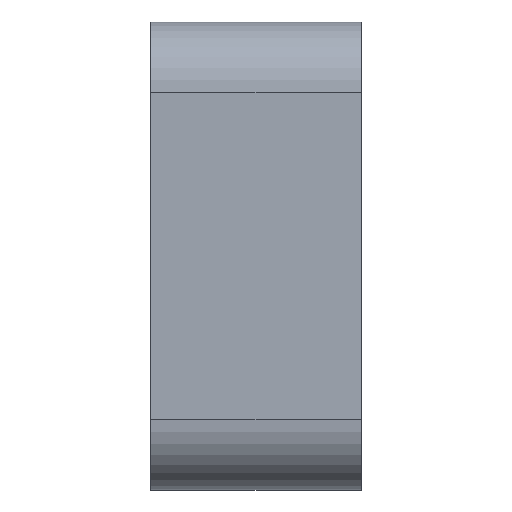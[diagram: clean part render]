
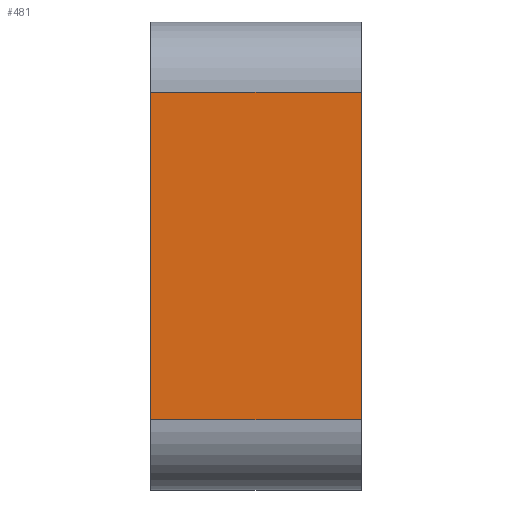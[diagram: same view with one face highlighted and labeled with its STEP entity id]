
A CAD part, top view. The second image highlights one B-rep face of the part: STEP entity #481.
In plain terms, the highlighted planar face has unit normal (0, 0, 1).
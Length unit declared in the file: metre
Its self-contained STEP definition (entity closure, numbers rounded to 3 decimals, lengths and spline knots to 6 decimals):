
#68=ORIENTED_EDGE('',*,*,#212,.F.);
#69=ORIENTED_EDGE('',*,*,#213,.T.);
#70=ORIENTED_EDGE('',*,*,#214,.T.);
#71=ORIENTED_EDGE('',*,*,#215,.T.);
#212=EDGE_CURVE('',#284,#285,#328,.T.);
#213=EDGE_CURVE('',#284,#286,#329,.T.);
#214=EDGE_CURVE('',#286,#287,#330,.T.);
#215=EDGE_CURVE('',#287,#285,#331,.F.);
#284=VERTEX_POINT('',#763);
#285=VERTEX_POINT('',#764);
#286=VERTEX_POINT('',#766);
#287=VERTEX_POINT('',#768);
#328=LINE('',#762,#376);
#329=LINE('',#765,#377);
#330=LINE('',#767,#378);
#331=LINE('',#769,#379);
#376=VECTOR('',#601,1.);
#377=VECTOR('',#602,1.);
#378=VECTOR('',#603,1.);
#379=VECTOR('',#604,1.);
#411=EDGE_LOOP('',(#68,#69,#70,#71));
#439=FACE_BOUND('',#411,.T.);
#467=PLANE('',#524);
#481=ADVANCED_FACE('',(#439),#467,.F.);
#524=AXIS2_PLACEMENT_3D('',#761,#599,#600);
#599=DIRECTION('',(0.,0.,-1.));
#600=DIRECTION('',(-1.,0.,0.));
#601=DIRECTION('',(0.,1.,0.));
#602=DIRECTION('',(1.,0.,0.));
#603=DIRECTION('',(0.,1.,0.));
#604=DIRECTION('',(1.,0.,0.));
#761=CARTESIAN_POINT('',(-0.163916,0.019142,0.1711));
#762=CARTESIAN_POINT('',(-0.149916,0.019142,0.1711));
#763=CARTESIAN_POINT('',(-0.149916,0.005142,0.1711));
#764=CARTESIAN_POINT('',(-0.149916,0.033142,0.1711));
#765=CARTESIAN_POINT('',(-0.131916,0.005142,0.1711));
#766=CARTESIAN_POINT('',(-0.131916,0.005142,0.1711));
#767=CARTESIAN_POINT('',(-0.131916,0.019142,0.1711));
#768=CARTESIAN_POINT('',(-0.131916,0.033142,0.1711));
#769=CARTESIAN_POINT('',(-0.163916,0.033142,0.1711));
